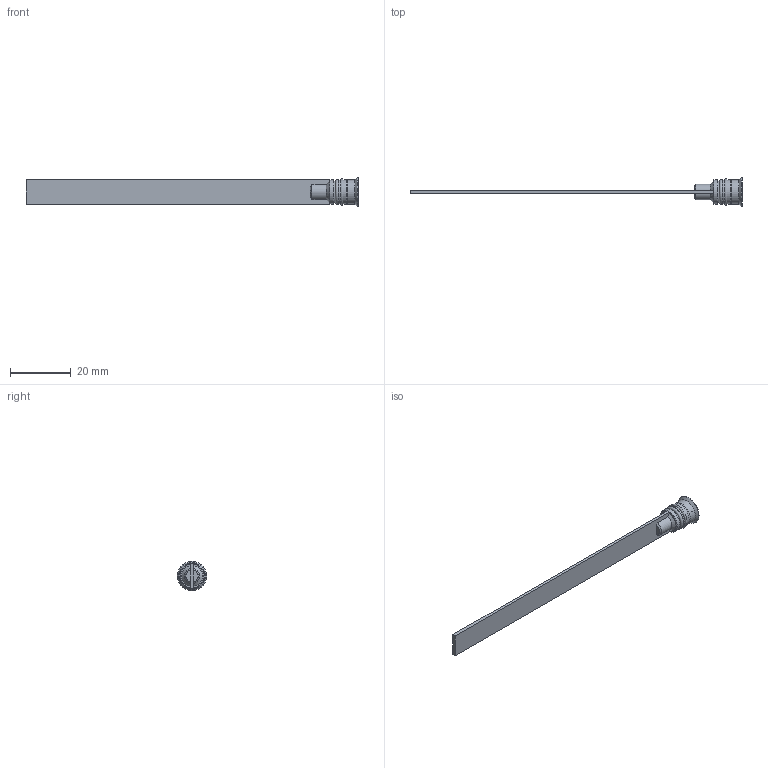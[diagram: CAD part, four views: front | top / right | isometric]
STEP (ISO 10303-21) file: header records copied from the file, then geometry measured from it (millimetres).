
FILE_DESCRIPTION( ( 'STEP AP214' ), '1' );
FILE_NAME( 'p:/temp/worker_238/temp/exporttempdir_3288_186_ETtG1/format_0/RL-8Fx100.stp', '2021-02-05T19:42:37', ( 'License CC BY-ND 4.0' ), ( 'CADENAS' ), ' ', 'PARTsolutions', ' ' );
FILE_SCHEMA( ( 'AUTOMOTIVE_DESIGN { 1 0 10303 214 1 1 1 1 }' ) );
Length unit declared in the file: millimetre
Products named in the file (1): _RL-8Fx100
Bounding box: 109.5 x 9.6 x 9.6 mm (x, y, z)
Volume: 1314.2 mm3; surface area: 2384.4 mm2
Topology: 1 solids, 1 shells, 52 faces, 127 edges, 80 vertices
Faces by surface type: plane 29, cone 10, cylinder 10, torus 3
Full cylindrical faces by diameter (mm): 4.9 x1, 8 x4, 9.6 x1
Entity records: 1886 total; most frequent: CARTESIAN_POINT 291, DIRECTION 236, ORIENTED_EDGE 224, EDGE_CURVE 112, AXIS2_PLACEMENT_3D 85, VERTEX_POINT 80, EDGE_LOOP 68, LINE 66
